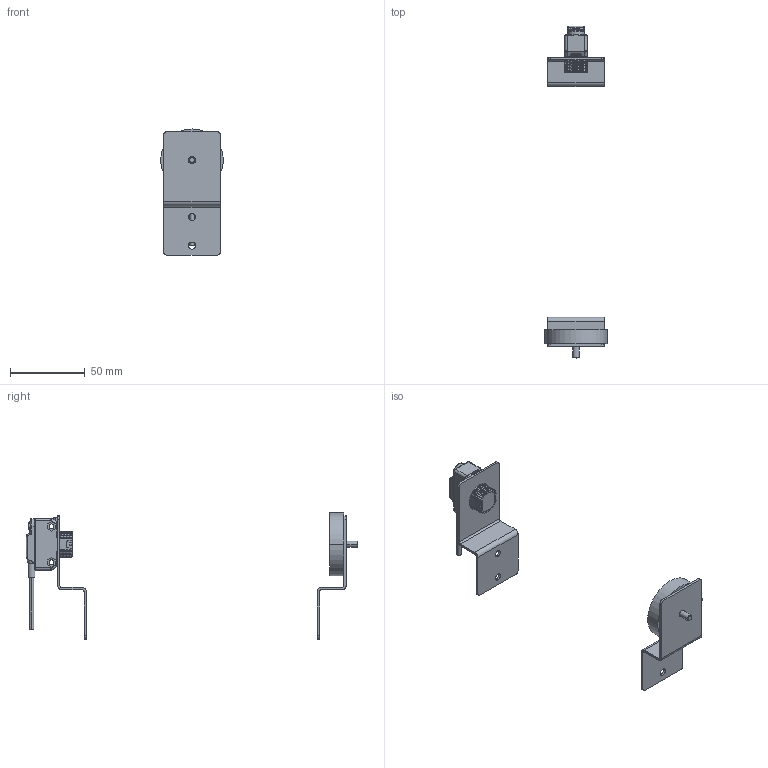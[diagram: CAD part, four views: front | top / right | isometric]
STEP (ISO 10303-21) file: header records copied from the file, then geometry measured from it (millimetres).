
FILE_DESCRIPTION(('STEP AP214'),'1');
FILE_NAME('IN1-PE-KIT-RJ11-X.step','2020-05-14T20:04:02',(' '),(' '),'Spatial InterOp 3D',' ',' ');
FILE_SCHEMA(('AUTOMOTIVE_DESIGN { 1 0 10303 214 1 1 1 1 }'));
Length unit declared in the file: millimetre
Products named in the file (1): 1
Bounding box: 42.01 x 222.35 x 84.51 mm (x, y, z)
Volume: 30757.4 mm3; surface area: 28369.4 mm2
Topology: 5 solids, 5 shells, 1011 faces, 2611 edges, 1642 vertices
Faces by surface type: plane 463, cylinder 329, bspline 102, torus 78, cone 29, sphere 10
Entity records: 78943 total; most frequent: CARTESIAN_POINT 46060, DIRECTION 5208, ORIENTED_EDGE 5194, EDGE_CURVE 2597, AXIS2_PLACEMENT_3D 1846, VERTEX_POINT 1642, LINE 1516, VECTOR 1516
